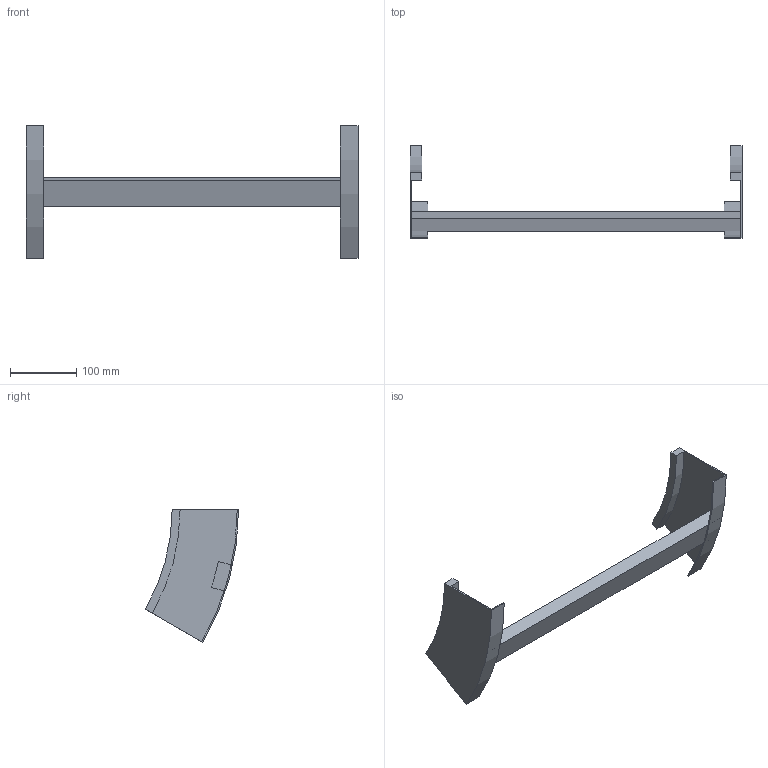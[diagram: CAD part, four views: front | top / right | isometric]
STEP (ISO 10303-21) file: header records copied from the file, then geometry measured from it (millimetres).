
FILE_DESCRIPTION (( 'STEP AP214' ), '1' );
FILE_NAME ('B2X32B3D500XX.step', '2025-03-20T09:58:13', ( '' ), ( '' ), 'SwSTEP 2.0', 'SolidWorks 2023', '' );
FILE_SCHEMA (( 'AUTOMOTIVE_DESIGN' ));
Length unit declared in the file: millimetre
Products named in the file (3): TRAVERSINO_500; B2X32B3D500XX; B2_LONGH.SALITA_30°_H100_R300
Assembly tree (3 placements, depth 2):
  B2X32B3D500XX
    B2_LONGH.SALITA_30°_H100_R300  x2
    TRAVERSINO_500
Bounding box: 500 x 140.19 x 200 mm (x, y, z)
Volume: 557480.4 mm3; surface area: 169319.7 mm2
Topology: 3 solids, 3 shells, 26 faces, 60 edges, 40 vertices
Faces by surface type: plane 18, cylinder 8
Entity records: 544 total; most frequent: DIRECTION 88, CARTESIAN_POINT 82, ORIENTED_EDGE 72, EDGE_CURVE 36, AXIS2_PLACEMENT_3D 30, LINE 28, VECTOR 28, VERTEX_POINT 24
